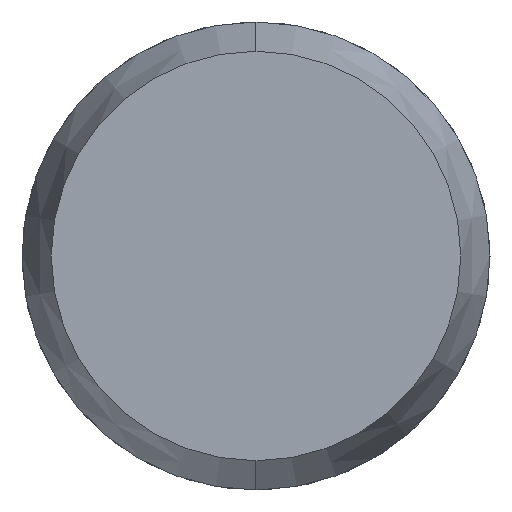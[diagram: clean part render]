
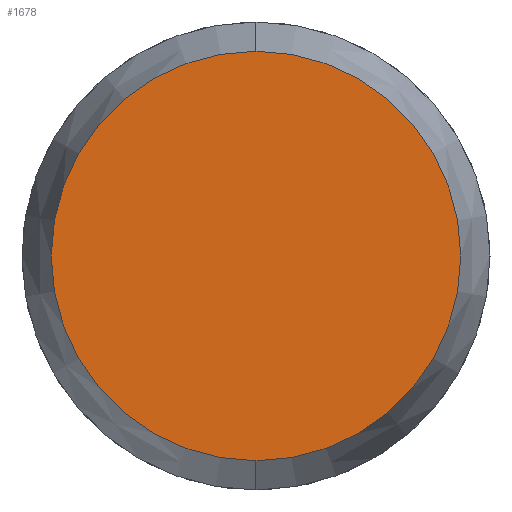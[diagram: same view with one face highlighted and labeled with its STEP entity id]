
A CAD part, left-side view. The second image highlights one B-rep face of the part: STEP entity #1678.
In plain terms, the highlighted planar face has unit normal (-1, 0, 0).
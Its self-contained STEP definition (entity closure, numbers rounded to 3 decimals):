
#72 = EDGE_CURVE ( 'NONE', #547, #155, #1453, .T. ) ;
#102 = DIRECTION ( 'NONE',  ( 1., 0., 0. ) ) ;
#142 = ORIENTED_EDGE ( 'NONE', *, *, #697, .T. ) ;
#155 = VERTEX_POINT ( 'NONE', #1329 ) ;
#213 = AXIS2_PLACEMENT_3D ( 'NONE', #1916, #548, #1162 ) ;
#547 = VERTEX_POINT ( 'NONE', #1870 ) ;
#548 = DIRECTION ( 'NONE',  ( -1., 0., 0. ) ) ;
#602 = EDGE_LOOP ( 'NONE', ( #142, #1909 ) ) ;
#695 = DIRECTION ( 'NONE',  ( 0., 0., -1. ) ) ;
#697 = EDGE_CURVE ( 'NONE', #155, #547, #1637, .T. ) ;
#1034 = DIRECTION ( 'NONE',  ( -1., 0., 0. ) ) ;
#1158 = CARTESIAN_POINT ( 'NONE',  ( 0., 0., 0. ) ) ;
#1162 = DIRECTION ( 'NONE',  ( 0., 0., 1. ) ) ;
#1221 = AXIS2_PLACEMENT_3D ( 'NONE', #1158, #1034, #1627 ) ;
#1329 = CARTESIAN_POINT ( 'NONE',  ( 0., 0., -3.5 ) ) ;
#1347 = AXIS2_PLACEMENT_3D ( 'NONE', #1477, #102, #695 ) ;
#1453 = CIRCLE ( 'NONE', #213, 3.5 ) ;
#1477 = CARTESIAN_POINT ( 'NONE',  ( 0., 0., 0. ) ) ;
#1486 = PLANE ( 'NONE',  #1347 ) ;
#1627 = DIRECTION ( 'NONE',  ( 0., 0., 1. ) ) ;
#1637 = CIRCLE ( 'NONE', #1221, 3.5 ) ;
#1678 = ADVANCED_FACE ( 'NONE', ( #1783 ), #1486, .F. ) ;
#1783 = FACE_OUTER_BOUND ( 'NONE', #602, .T. ) ;
#1870 = CARTESIAN_POINT ( 'NONE',  ( 0., 0., 3.5 ) ) ;
#1909 = ORIENTED_EDGE ( 'NONE', *, *, #72, .T. ) ;
#1916 = CARTESIAN_POINT ( 'NONE',  ( 0., 0., 0. ) ) ;
